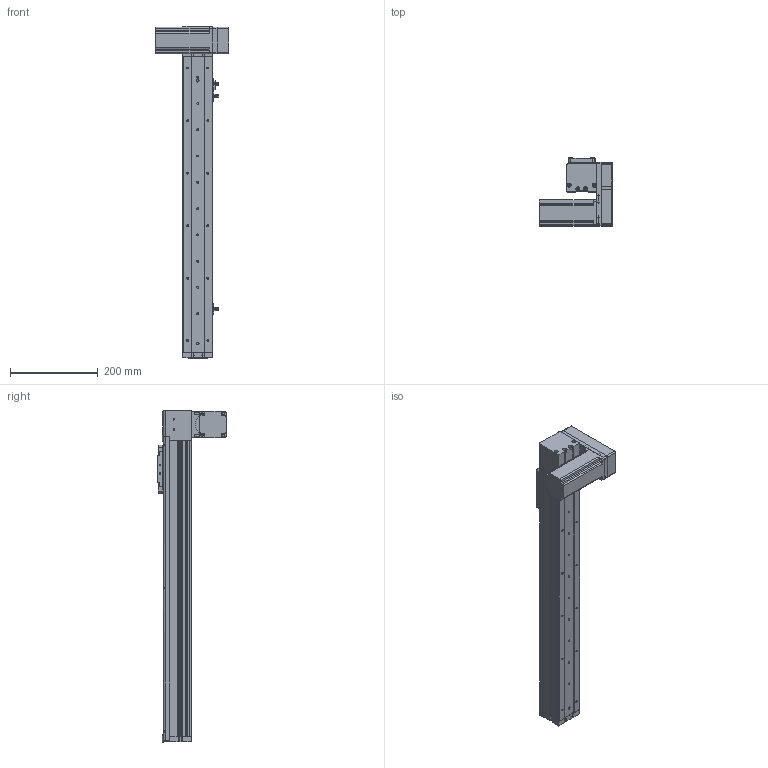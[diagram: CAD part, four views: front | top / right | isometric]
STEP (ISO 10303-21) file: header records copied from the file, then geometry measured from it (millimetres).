
FILE_DESCRIPTION (( 'STEP AP214' ), '1' );
FILE_NAME ('KSD68BS-S500-MLD-CR.STEP', '2019-08-27T03:36:43', ( '微软用户' ), ( '微软中国' ), 'SwSTEP 2.0', 'SolidWorks 2014', '' );
FILE_SCHEMA (( 'AUTOMOTIVE_DESIGN' ));
Length unit declared in the file: millimetre
Products named in the file (14): 68宽单导轨全封闭丝杆传动安装板1防护罩; KSD68BS 500行程侧板全封闭; 68宽单导轨全封闭同步带端板; KSD68BS 500行程盖板全封闭; 68单导轨全封闭同步带电机座左; 68单导轨全封闭同步带安装板; 悵誘欶奻狟殏; 68宽马达安装板连板上折同步带; 感应片68宽全封闭; U倰嫖萇EEㄜSX672; 台达ECMA－C20604AS伺服电机（400W); KSD68BS 500行程底板全封闭; KSD68BS-S500-MLD-CR; 68遵裔啣揤啣1
Assembly tree (17 placements, depth 2):
  KSD68BS-S500-MLD-CR
    KSD68BS 500行程底板全封闭
    台达ECMA－C20604AS伺服电机（400W)
    U倰嫖萇EEㄜSX672  x3
    感应片68宽全封闭
    68宽马达安装板连板上折同步带
    悵誘欶奻狟殏
    68单导轨全封闭同步带安装板
    68单导轨全封闭同步带电机座左
    68宽单导轨全封闭同步带端板
    KSD68BS 500行程侧板全封闭  x2
    68宽单导轨全封闭丝杆传动安装板1防护罩
    68遵裔啣揤啣1  x2
    KSD68BS 500行程盖板全封闭
Bounding box: 167.2 x 155.5 x 758.1 mm (x, y, z)
Volume: 1863375 mm3; surface area: 653655.4 mm2
Topology: 18 solids, 18 shells, 1397 faces, 3935 edges, 2530 vertices
Faces by surface type: cylinder 636, plane 625, cone 136
Entity records: 43489 total; most frequent: CARTESIAN_POINT 7365, DIRECTION 6574, ORIENTED_EDGE 6306, EDGE_CURVE 3153, AXIS2_PLACEMENT_3D 2343, VERTEX_POINT 2068, LINE 1888, VECTOR 1888
